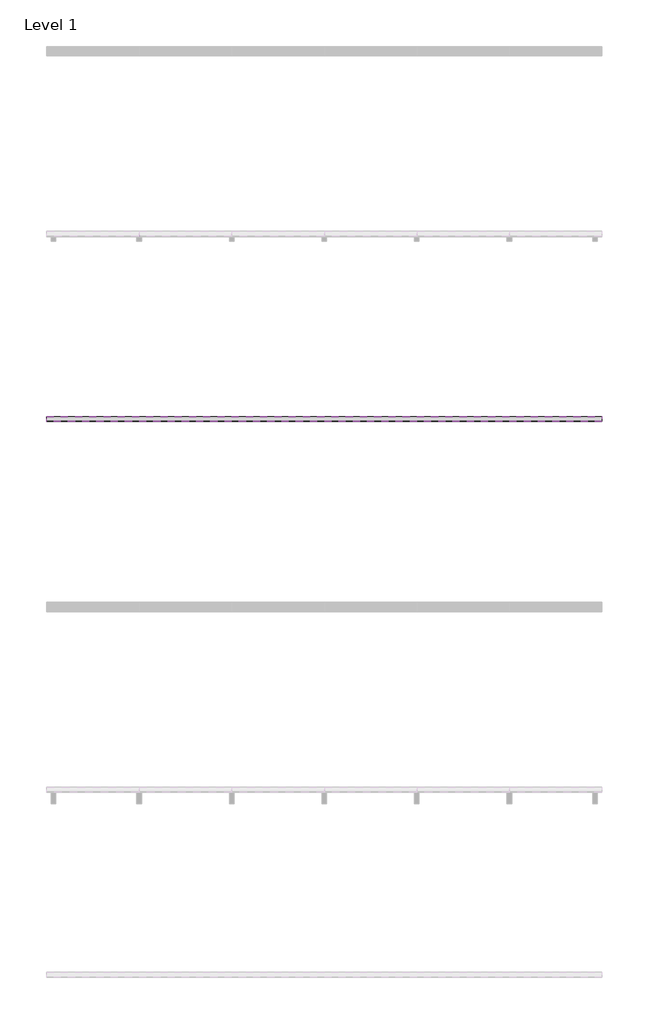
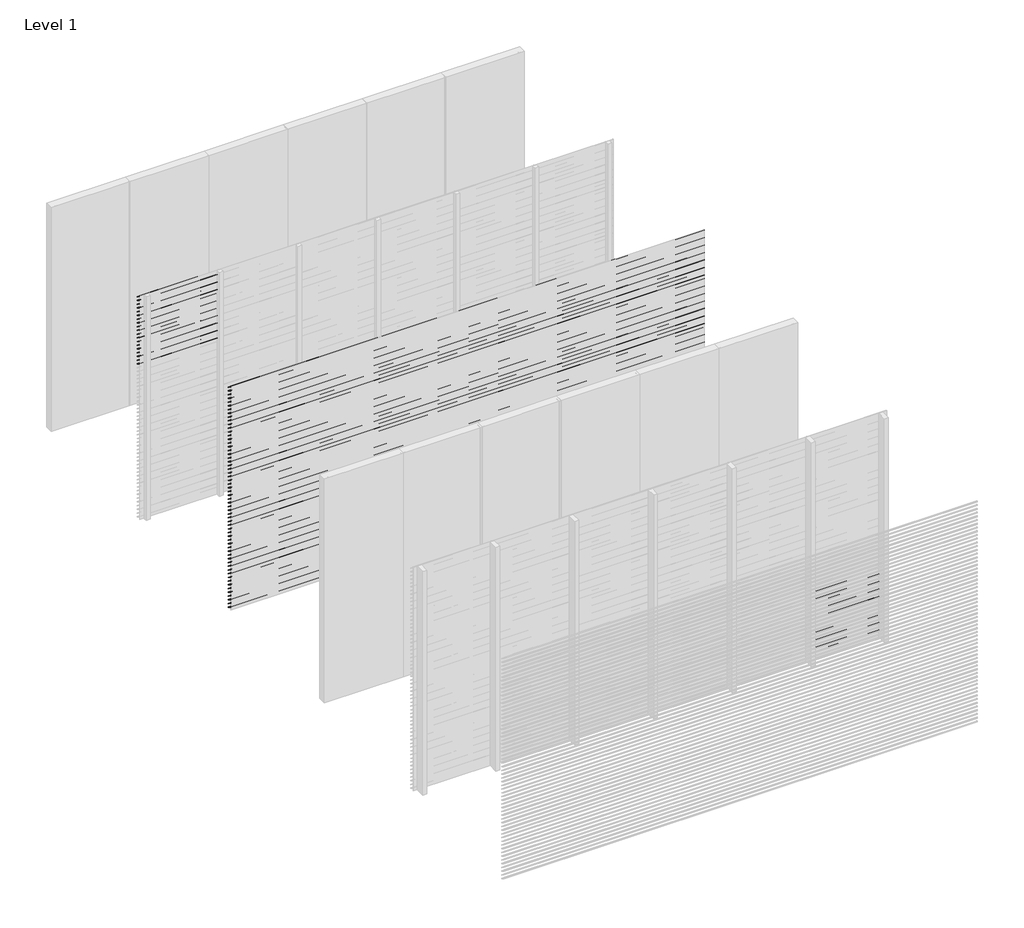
# One storey, part 6 of 18: 97 proxies.
"""IFC4 building model written with IfcOpenShell, lengths in millimetres."""

from ifc_helpers import new_model, si_unit, frame, origin, place, context, project, spatial, polyline, outline, extrude, element, save

model = new_model("IFC4")

# Units and contexts
model_context = context("Model", 3, world=origin())
ifc_project = project(units=[si_unit("LENGTHUNIT", "METRE", prefix="MILLI")], contexts=[model_context])

# Site, building, storey
site = spatial("IfcSite", under=ifc_project)
building = spatial("IfcBuilding", under=site)
storey = spatial("IfcBuildingStorey", under=building, Name="Level 1", Elevation=0.0)

# Proxies
placement = place(None, origin())
element("IfcBuildingElementProxy", 1, Name="Wall Sweeps", at=placement, inside=storey, context=model_context, shape_type="SweptSolid", body=[
    extrude(outline(polyline([(-11995.0, 3000.0), (-11995.0, 2991.0744429), (-11943.0, 2956.0), (-11943.0, 2950.0), (-11997.0, 2986.4234599), (-11997.0, 3000.0), (-11995.0, 3000.0)])), frame((0.0, 0.0, 0.0), z_axis=(1.0, 0.0, 0.0), x_axis=(0.0, 1.0, 0.0)), (0.0, 0.0, 1.0), 1000.0),
])
element("IfcBuildingElementProxy", 2, Name="Wall Sweeps", at=placement, inside=storey, context=model_context, shape_type="SweptSolid", body=[
    extrude(outline(polyline([(-11995.0, 2950.0), (-11995.0, 2941.0744429), (-11943.0, 2906.0), (-11943.0, 2900.0), (-11997.0, 2936.4234599), (-11997.0, 2950.0), (-11995.0, 2950.0)])), frame((0.0, 0.0, 0.0), z_axis=(1.0, 0.0, 0.0), x_axis=(0.0, 1.0, 0.0)), (0.0, 0.0, 1.0), 1000.0),
])
element("IfcBuildingElementProxy", 3, Name="Wall Sweeps", at=placement, inside=storey, context=model_context, shape_type="SweptSolid", body=[
    extrude(outline(polyline([(-11995.0, 2900.0), (-11995.0, 2891.0744429), (-11943.0, 2856.0), (-11943.0, 2850.0), (-11997.0, 2886.4234599), (-11997.0, 2900.0), (-11995.0, 2900.0)])), frame((0.0, 0.0, 0.0), z_axis=(1.0, 0.0, 0.0), x_axis=(0.0, 1.0, 0.0)), (0.0, 0.0, 1.0), 1000.0),
])
element("IfcBuildingElementProxy", 4, Name="Wall Sweeps", at=placement, inside=storey, context=model_context, shape_type="SweptSolid", body=[
    extrude(outline(polyline([(-11995.0, 2850.0), (-11995.0, 2841.0744429), (-11943.0, 2806.0), (-11943.0, 2800.0), (-11997.0, 2836.4234599), (-11997.0, 2850.0), (-11995.0, 2850.0)])), frame((0.0, 0.0, 0.0), z_axis=(1.0, 0.0, 0.0), x_axis=(0.0, 1.0, 0.0)), (0.0, 0.0, 1.0), 1000.0),
])
element("IfcBuildingElementProxy", 5, Name="Wall Sweeps", at=placement, inside=storey, context=model_context, shape_type="SweptSolid", body=[
    extrude(outline(polyline([(-11995.0, 2800.0), (-11995.0, 2791.0744429), (-11943.0, 2756.0), (-11943.0, 2750.0), (-11997.0, 2786.4234599), (-11997.0, 2800.0), (-11995.0, 2800.0)])), frame((0.0, 0.0, 0.0), z_axis=(1.0, 0.0, 0.0), x_axis=(0.0, 1.0, 0.0)), (0.0, 0.0, 1.0), 1000.0),
])
element("IfcBuildingElementProxy", 6, Name="Wall Sweeps", at=placement, inside=storey, context=model_context, shape_type="SweptSolid", body=[
    extrude(outline(polyline([(-11995.0, 2750.0), (-11995.0, 2741.0744429), (-11943.0, 2706.0), (-11943.0, 2700.0), (-11997.0, 2736.4234599), (-11997.0, 2750.0), (-11995.0, 2750.0)])), frame((0.0, 0.0, 0.0), z_axis=(1.0, 0.0, 0.0), x_axis=(0.0, 1.0, 0.0)), (0.0, 0.0, 1.0), 1000.0),
])
element("IfcBuildingElementProxy", 7, Name="Wall Sweeps", at=placement, inside=storey, context=model_context, shape_type="SweptSolid", body=[
    extrude(outline(polyline([(-11995.0, 2700.0), (-11995.0, 2691.0744429), (-11943.0, 2656.0), (-11943.0, 2650.0), (-11997.0, 2686.4234599), (-11997.0, 2700.0), (-11995.0, 2700.0)])), frame((0.0, 0.0, 0.0), z_axis=(1.0, 0.0, 0.0), x_axis=(0.0, 1.0, 0.0)), (0.0, 0.0, 1.0), 1000.0),
])
element("IfcBuildingElementProxy", 8, Name="Wall Sweeps", at=placement, inside=storey, context=model_context, shape_type="SweptSolid", body=[
    extrude(outline(polyline([(-11995.0, 2650.0), (-11995.0, 2641.0744429), (-11943.0, 2606.0), (-11943.0, 2600.0), (-11997.0, 2636.4234599), (-11997.0, 2650.0), (-11995.0, 2650.0)])), frame((0.0, 0.0, 0.0), z_axis=(1.0, 0.0, 0.0), x_axis=(0.0, 1.0, 0.0)), (0.0, 0.0, 1.0), 1000.0),
])
element("IfcBuildingElementProxy", 9, Name="Wall Sweeps", at=placement, inside=storey, context=model_context, shape_type="SweptSolid", body=[
    extrude(outline(polyline([(-11995.0, 2600.0), (-11995.0, 2591.0744429), (-11943.0, 2556.0), (-11943.0, 2550.0), (-11997.0, 2586.4234599), (-11997.0, 2600.0), (-11995.0, 2600.0)])), frame((0.0, 0.0, 0.0), z_axis=(1.0, 0.0, 0.0), x_axis=(0.0, 1.0, 0.0)), (0.0, 0.0, 1.0), 1000.0),
])
element("IfcBuildingElementProxy", 10, Name="Wall Sweeps", at=placement, inside=storey, context=model_context, shape_type="SweptSolid", body=[
    extrude(outline(polyline([(-11995.0, 2550.0), (-11995.0, 2541.0744429), (-11943.0, 2506.0), (-11943.0, 2500.0), (-11997.0, 2536.4234599), (-11997.0, 2550.0), (-11995.0, 2550.0)])), frame((0.0, 0.0, 0.0), z_axis=(1.0, 0.0, 0.0), x_axis=(0.0, 1.0, 0.0)), (0.0, 0.0, 1.0), 1000.0),
])
element("IfcBuildingElementProxy", 11, Name="Wall Sweeps", at=placement, inside=storey, context=model_context, shape_type="SweptSolid", body=[
    extrude(outline(polyline([(-11995.0, 2500.0), (-11995.0, 2491.0744429), (-11943.0, 2456.0), (-11943.0, 2450.0), (-11997.0, 2486.4234599), (-11997.0, 2500.0), (-11995.0, 2500.0)])), frame((0.0, 0.0, 0.0), z_axis=(1.0, 0.0, 0.0), x_axis=(0.0, 1.0, 0.0)), (0.0, 0.0, 1.0), 1000.0),
])
element("IfcBuildingElementProxy", 12, Name="Wall Sweeps", at=placement, inside=storey, context=model_context, shape_type="SweptSolid", body=[
    extrude(outline(polyline([(-11995.0, 2450.0), (-11995.0, 2441.0744429), (-11943.0, 2406.0), (-11943.0, 2400.0), (-11997.0, 2436.4234599), (-11997.0, 2450.0), (-11995.0, 2450.0)])), frame((0.0, 0.0, 0.0), z_axis=(1.0, 0.0, 0.0), x_axis=(0.0, 1.0, 0.0)), (0.0, 0.0, 1.0), 1000.0),
])
element("IfcBuildingElementProxy", 13, Name="Wall Sweeps", at=placement, inside=storey, context=model_context, shape_type="SweptSolid", body=[
    extrude(outline(polyline([(-11995.0, 2400.0), (-11995.0, 2391.0744429), (-11943.0, 2356.0), (-11943.0, 2350.0), (-11997.0, 2386.4234599), (-11997.0, 2400.0), (-11995.0, 2400.0)])), frame((0.0, 0.0, 0.0), z_axis=(1.0, 0.0, 0.0), x_axis=(0.0, 1.0, 0.0)), (0.0, 0.0, 1.0), 1000.0),
])
element("IfcBuildingElementProxy", 14, Name="Wall Sweeps", at=placement, inside=storey, context=model_context, shape_type="SweptSolid", body=[
    extrude(outline(polyline([(-11995.0, 2350.0), (-11995.0, 2341.0744429), (-11943.0, 2306.0), (-11943.0, 2300.0), (-11997.0, 2336.4234599), (-11997.0, 2350.0), (-11995.0, 2350.0)])), frame((0.0, 0.0, 0.0), z_axis=(1.0, 0.0, 0.0), x_axis=(0.0, 1.0, 0.0)), (0.0, 0.0, 1.0), 1000.0),
])
element("IfcBuildingElementProxy", 15, Name="Wall Sweeps", at=placement, inside=storey, context=model_context, shape_type="SweptSolid", body=[
    extrude(outline(polyline([(-11995.0, 2300.0), (-11995.0, 2291.0744429), (-11943.0, 2256.0), (-11943.0, 2250.0), (-11997.0, 2286.4234599), (-11997.0, 2300.0), (-11995.0, 2300.0)])), frame((0.0, 0.0, 0.0), z_axis=(1.0, 0.0, 0.0), x_axis=(0.0, 1.0, 0.0)), (0.0, 0.0, 1.0), 1000.0),
])
element("IfcBuildingElementProxy", 16, Name="Wall Sweeps", at=placement, inside=storey, context=model_context, shape_type="SweptSolid", body=[
    extrude(outline(polyline([(-11995.0, 2250.0), (-11995.0, 2241.0744429), (-11943.0, 2206.0), (-11943.0, 2200.0), (-11997.0, 2236.4234599), (-11997.0, 2250.0), (-11995.0, 2250.0)])), frame((0.0, 0.0, 0.0), z_axis=(1.0, 0.0, 0.0), x_axis=(0.0, 1.0, 0.0)), (0.0, 0.0, 1.0), 1000.0),
])
element("IfcBuildingElementProxy", 17, Name="Wall Sweeps", at=placement, inside=storey, context=model_context, shape_type="SweptSolid", body=[
    extrude(outline(polyline([(-11995.0, 2200.0), (-11995.0, 2191.0744429), (-11943.0, 2156.0), (-11943.0, 2150.0), (-11997.0, 2186.4234599), (-11997.0, 2200.0), (-11995.0, 2200.0)])), frame((0.0, 0.0, 0.0), z_axis=(1.0, 0.0, 0.0), x_axis=(0.0, 1.0, 0.0)), (0.0, 0.0, 1.0), 1000.0),
])
element("IfcBuildingElementProxy", 18, Name="Wall Sweeps", at=placement, inside=storey, context=model_context, shape_type="SweptSolid", body=[
    extrude(outline(polyline([(-11995.0, 2150.0), (-11995.0, 2141.0744429), (-11943.0, 2106.0), (-11943.0, 2100.0), (-11997.0, 2136.4234599), (-11997.0, 2150.0), (-11995.0, 2150.0)])), frame((0.0, 0.0, 0.0), z_axis=(1.0, 0.0, 0.0), x_axis=(0.0, 1.0, 0.0)), (0.0, 0.0, 1.0), 1000.0),
])
element("IfcBuildingElementProxy", 19, Name="Wall Sweeps", at=placement, inside=storey, context=model_context, shape_type="SweptSolid", body=[
    extrude(outline(polyline([(-11995.0, 2100.0), (-11995.0, 2091.0744429), (-11943.0, 2056.0), (-11943.0, 2050.0), (-11997.0, 2086.4234599), (-11997.0, 2100.0), (-11995.0, 2100.0)])), frame((0.0, 0.0, 0.0), z_axis=(1.0, 0.0, 0.0), x_axis=(0.0, 1.0, 0.0)), (0.0, 0.0, 1.0), 1000.0),
])
element("IfcBuildingElementProxy", 20, Name="Wall Sweeps", at=placement, inside=storey, context=model_context, shape_type="SweptSolid", body=[
    extrude(outline(polyline([(-13995.0, 3000.0), (-13995.0, 2991.0744429), (-13943.0, 2956.0), (-13943.0, 2950.0), (-13997.0, 2986.4234599), (-13997.0, 3000.0), (-13995.0, 3000.0)])), frame((0.0, 0.0, 0.0), z_axis=(1.0, 0.0, 0.0), x_axis=(0.0, 1.0, 0.0)), (0.0, 0.0, 1.0), 6000.0),
])
element("IfcBuildingElementProxy", 21, Name="Wall Sweeps", at=placement, inside=storey, context=model_context, shape_type="SweptSolid", body=[
    extrude(outline(polyline([(-13995.0, 2950.0), (-13995.0, 2941.0744429), (-13943.0, 2906.0), (-13943.0, 2900.0), (-13997.0, 2936.4234599), (-13997.0, 2950.0), (-13995.0, 2950.0)])), frame((0.0, 0.0, 0.0), z_axis=(1.0, 0.0, 0.0), x_axis=(0.0, 1.0, 0.0)), (0.0, 0.0, 1.0), 6000.0),
])
element("IfcBuildingElementProxy", 22, Name="Wall Sweeps", at=placement, inside=storey, context=model_context, shape_type="SweptSolid", body=[
    extrude(outline(polyline([(-13995.0, 2900.0), (-13995.0, 2891.0744429), (-13943.0, 2856.0), (-13943.0, 2850.0), (-13997.0, 2886.4234599), (-13997.0, 2900.0), (-13995.0, 2900.0)])), frame((0.0, 0.0, 0.0), z_axis=(1.0, 0.0, 0.0), x_axis=(0.0, 1.0, 0.0)), (0.0, 0.0, 1.0), 6000.0),
])
element("IfcBuildingElementProxy", 23, Name="Wall Sweeps", at=placement, inside=storey, context=model_context, shape_type="SweptSolid", body=[
    extrude(outline(polyline([(-13995.0, 2850.0), (-13995.0, 2841.0744429), (-13943.0, 2806.0), (-13943.0, 2800.0), (-13997.0, 2836.4234599), (-13997.0, 2850.0), (-13995.0, 2850.0)])), frame((0.0, 0.0, 0.0), z_axis=(1.0, 0.0, 0.0), x_axis=(0.0, 1.0, 0.0)), (0.0, 0.0, 1.0), 6000.0),
])
element("IfcBuildingElementProxy", 24, Name="Wall Sweeps", at=placement, inside=storey, context=model_context, shape_type="SweptSolid", body=[
    extrude(outline(polyline([(-13995.0, 2800.0), (-13995.0, 2791.0744429), (-13943.0, 2756.0), (-13943.0, 2750.0), (-13997.0, 2786.4234599), (-13997.0, 2800.0), (-13995.0, 2800.0)])), frame((0.0, 0.0, 0.0), z_axis=(1.0, 0.0, 0.0), x_axis=(0.0, 1.0, 0.0)), (0.0, 0.0, 1.0), 6000.0),
])
element("IfcBuildingElementProxy", 25, Name="Wall Sweeps", at=placement, inside=storey, context=model_context, shape_type="SweptSolid", body=[
    extrude(outline(polyline([(-13995.0, 2750.0), (-13995.0, 2741.0744429), (-13943.0, 2706.0), (-13943.0, 2700.0), (-13997.0, 2736.4234599), (-13997.0, 2750.0), (-13995.0, 2750.0)])), frame((0.0, 0.0, 0.0), z_axis=(1.0, 0.0, 0.0), x_axis=(0.0, 1.0, 0.0)), (0.0, 0.0, 1.0), 6000.0),
])
element("IfcBuildingElementProxy", 26, Name="Wall Sweeps", at=placement, inside=storey, context=model_context, shape_type="SweptSolid", body=[
    extrude(outline(polyline([(-13995.0, 2700.0), (-13995.0, 2691.0744429), (-13943.0, 2656.0), (-13943.0, 2650.0), (-13997.0, 2686.4234599), (-13997.0, 2700.0), (-13995.0, 2700.0)])), frame((0.0, 0.0, 0.0), z_axis=(1.0, 0.0, 0.0), x_axis=(0.0, 1.0, 0.0)), (0.0, 0.0, 1.0), 6000.0),
])
element("IfcBuildingElementProxy", 27, Name="Wall Sweeps", at=placement, inside=storey, context=model_context, shape_type="SweptSolid", body=[
    extrude(outline(polyline([(-13995.0, 2650.0), (-13995.0, 2641.0744429), (-13943.0, 2606.0), (-13943.0, 2600.0), (-13997.0, 2636.4234599), (-13997.0, 2650.0), (-13995.0, 2650.0)])), frame((0.0, 0.0, 0.0), z_axis=(1.0, 0.0, 0.0), x_axis=(0.0, 1.0, 0.0)), (0.0, 0.0, 1.0), 6000.0),
])
element("IfcBuildingElementProxy", 28, Name="Wall Sweeps", at=placement, inside=storey, context=model_context, shape_type="SweptSolid", body=[
    extrude(outline(polyline([(-13995.0, 2600.0), (-13995.0, 2591.0744429), (-13943.0, 2556.0), (-13943.0, 2550.0), (-13997.0, 2586.4234599), (-13997.0, 2600.0), (-13995.0, 2600.0)])), frame((0.0, 0.0, 0.0), z_axis=(1.0, 0.0, 0.0), x_axis=(0.0, 1.0, 0.0)), (0.0, 0.0, 1.0), 6000.0),
])
element("IfcBuildingElementProxy", 29, Name="Wall Sweeps", at=placement, inside=storey, context=model_context, shape_type="SweptSolid", body=[
    extrude(outline(polyline([(-13995.0, 2550.0), (-13995.0, 2541.0744429), (-13943.0, 2506.0), (-13943.0, 2500.0), (-13997.0, 2536.4234599), (-13997.0, 2550.0), (-13995.0, 2550.0)])), frame((0.0, 0.0, 0.0), z_axis=(1.0, 0.0, 0.0), x_axis=(0.0, 1.0, 0.0)), (0.0, 0.0, 1.0), 6000.0),
])
element("IfcBuildingElementProxy", 30, Name="Wall Sweeps", at=placement, inside=storey, context=model_context, shape_type="SweptSolid", body=[
    extrude(outline(polyline([(-13995.0, 2500.0), (-13995.0, 2491.0744429), (-13943.0, 2456.0), (-13943.0, 2450.0), (-13997.0, 2486.4234599), (-13997.0, 2500.0), (-13995.0, 2500.0)])), frame((0.0, 0.0, 0.0), z_axis=(1.0, 0.0, 0.0), x_axis=(0.0, 1.0, 0.0)), (0.0, 0.0, 1.0), 6000.0),
])
element("IfcBuildingElementProxy", 31, Name="Wall Sweeps", at=placement, inside=storey, context=model_context, shape_type="SweptSolid", body=[
    extrude(outline(polyline([(-13995.0, 2450.0), (-13995.0, 2441.0744429), (-13943.0, 2406.0), (-13943.0, 2400.0), (-13997.0, 2436.4234599), (-13997.0, 2450.0), (-13995.0, 2450.0)])), frame((0.0, 0.0, 0.0), z_axis=(1.0, 0.0, 0.0), x_axis=(0.0, 1.0, 0.0)), (0.0, 0.0, 1.0), 6000.0),
])
element("IfcBuildingElementProxy", 32, Name="Wall Sweeps", at=placement, inside=storey, context=model_context, shape_type="SweptSolid", body=[
    extrude(outline(polyline([(-13995.0, 2400.0), (-13995.0, 2391.0744429), (-13943.0, 2356.0), (-13943.0, 2350.0), (-13997.0, 2386.4234599), (-13997.0, 2400.0), (-13995.0, 2400.0)])), frame((0.0, 0.0, 0.0), z_axis=(1.0, 0.0, 0.0), x_axis=(0.0, 1.0, 0.0)), (0.0, 0.0, 1.0), 6000.0),
])
element("IfcBuildingElementProxy", 33, Name="Wall Sweeps", at=placement, inside=storey, context=model_context, shape_type="SweptSolid", body=[
    extrude(outline(polyline([(-13995.0, 2350.0), (-13995.0, 2341.0744429), (-13943.0, 2306.0), (-13943.0, 2300.0), (-13997.0, 2336.4234599), (-13997.0, 2350.0), (-13995.0, 2350.0)])), frame((0.0, 0.0, 0.0), z_axis=(1.0, 0.0, 0.0), x_axis=(0.0, 1.0, 0.0)), (0.0, 0.0, 1.0), 6000.0),
])
element("IfcBuildingElementProxy", 34, Name="Wall Sweeps", at=placement, inside=storey, context=model_context, shape_type="SweptSolid", body=[
    extrude(outline(polyline([(-13995.0, 2300.0), (-13995.0, 2291.0744429), (-13943.0, 2256.0), (-13943.0, 2250.0), (-13997.0, 2286.4234599), (-13997.0, 2300.0), (-13995.0, 2300.0)])), frame((0.0, 0.0, 0.0), z_axis=(1.0, 0.0, 0.0), x_axis=(0.0, 1.0, 0.0)), (0.0, 0.0, 1.0), 6000.0),
])
element("IfcBuildingElementProxy", 35, Name="Wall Sweeps", at=placement, inside=storey, context=model_context, shape_type="SweptSolid", body=[
    extrude(outline(polyline([(-13995.0, 2250.0), (-13995.0, 2241.0744429), (-13943.0, 2206.0), (-13943.0, 2200.0), (-13997.0, 2236.4234599), (-13997.0, 2250.0), (-13995.0, 2250.0)])), frame((0.0, 0.0, 0.0), z_axis=(1.0, 0.0, 0.0), x_axis=(0.0, 1.0, 0.0)), (0.0, 0.0, 1.0), 6000.0),
])
element("IfcBuildingElementProxy", 36, Name="Wall Sweeps", at=placement, inside=storey, context=model_context, shape_type="SweptSolid", body=[
    extrude(outline(polyline([(-13995.0, 2200.0), (-13995.0, 2191.0744429), (-13943.0, 2156.0), (-13943.0, 2150.0), (-13997.0, 2186.4234599), (-13997.0, 2200.0), (-13995.0, 2200.0)])), frame((0.0, 0.0, 0.0), z_axis=(1.0, 0.0, 0.0), x_axis=(0.0, 1.0, 0.0)), (0.0, 0.0, 1.0), 6000.0),
])
element("IfcBuildingElementProxy", 37, Name="Wall Sweeps", at=placement, inside=storey, context=model_context, shape_type="SweptSolid", body=[
    extrude(outline(polyline([(-13995.0, 2150.0), (-13995.0, 2141.0744429), (-13943.0, 2106.0), (-13943.0, 2100.0), (-13997.0, 2136.4234599), (-13997.0, 2150.0), (-13995.0, 2150.0)])), frame((0.0, 0.0, 0.0), z_axis=(1.0, 0.0, 0.0), x_axis=(0.0, 1.0, 0.0)), (0.0, 0.0, 1.0), 6000.0),
])
element("IfcBuildingElementProxy", 38, Name="Wall Sweeps", at=placement, inside=storey, context=model_context, shape_type="SweptSolid", body=[
    extrude(outline(polyline([(-13995.0, 2100.0), (-13995.0, 2091.0744429), (-13943.0, 2056.0), (-13943.0, 2050.0), (-13997.0, 2086.4234599), (-13997.0, 2100.0), (-13995.0, 2100.0)])), frame((0.0, 0.0, 0.0), z_axis=(1.0, 0.0, 0.0), x_axis=(0.0, 1.0, 0.0)), (0.0, 0.0, 1.0), 6000.0),
])
element("IfcBuildingElementProxy", 39, Name="Wall Sweeps", at=placement, inside=storey, context=model_context, shape_type="SweptSolid", body=[
    extrude(outline(polyline([(-13995.0, 2050.0), (-13995.0, 2041.0744429), (-13943.0, 2006.0), (-13943.0, 2000.0), (-13997.0, 2036.4234599), (-13997.0, 2050.0), (-13995.0, 2050.0)])), frame((0.0, 0.0, 0.0), z_axis=(1.0, 0.0, 0.0), x_axis=(0.0, 1.0, 0.0)), (0.0, 0.0, 1.0), 6000.0),
])
element("IfcBuildingElementProxy", 40, Name="Wall Sweeps", at=placement, inside=storey, context=model_context, shape_type="SweptSolid", body=[
    extrude(outline(polyline([(-13995.0, 2000.0), (-13995.0, 1991.0744429), (-13943.0, 1956.0), (-13943.0, 1950.0), (-13997.0, 1986.4234599), (-13997.0, 2000.0), (-13995.0, 2000.0)])), frame((0.0, 0.0, 0.0), z_axis=(1.0, 0.0, 0.0), x_axis=(0.0, 1.0, 0.0)), (0.0, 0.0, 1.0), 6000.0),
])
element("IfcBuildingElementProxy", 41, Name="Wall Sweeps", at=placement, inside=storey, context=model_context, shape_type="SweptSolid", body=[
    extrude(outline(polyline([(-13995.0, 1950.0), (-13995.0, 1941.0744429), (-13943.0, 1906.0), (-13943.0, 1900.0), (-13997.0, 1936.4234599), (-13997.0, 1950.0), (-13995.0, 1950.0)])), frame((0.0, 0.0, 0.0), z_axis=(1.0, 0.0, 0.0), x_axis=(0.0, 1.0, 0.0)), (0.0, 0.0, 1.0), 6000.0),
])
element("IfcBuildingElementProxy", 42, Name="Wall Sweeps", at=placement, inside=storey, context=model_context, shape_type="SweptSolid", body=[
    extrude(outline(polyline([(-13995.0, 1900.0), (-13995.0, 1891.0744429), (-13943.0, 1856.0), (-13943.0, 1850.0), (-13997.0, 1886.4234599), (-13997.0, 1900.0), (-13995.0, 1900.0)])), frame((0.0, 0.0, 0.0), z_axis=(1.0, 0.0, 0.0), x_axis=(0.0, 1.0, 0.0)), (0.0, 0.0, 1.0), 6000.0),
])
element("IfcBuildingElementProxy", 43, Name="Wall Sweeps", at=placement, inside=storey, context=model_context, shape_type="SweptSolid", body=[
    extrude(outline(polyline([(-13995.0, 1850.0), (-13995.0, 1841.0744429), (-13943.0, 1806.0), (-13943.0, 1800.0), (-13997.0, 1836.4234599), (-13997.0, 1850.0), (-13995.0, 1850.0)])), frame((0.0, 0.0, 0.0), z_axis=(1.0, 0.0, 0.0), x_axis=(0.0, 1.0, 0.0)), (0.0, 0.0, 1.0), 6000.0),
])
element("IfcBuildingElementProxy", 44, Name="Wall Sweeps", at=placement, inside=storey, context=model_context, shape_type="SweptSolid", body=[
    extrude(outline(polyline([(-13995.0, 1800.0), (-13995.0, 1791.0744429), (-13943.0, 1756.0), (-13943.0, 1750.0), (-13997.0, 1786.4234599), (-13997.0, 1800.0), (-13995.0, 1800.0)])), frame((0.0, 0.0, 0.0), z_axis=(1.0, 0.0, 0.0), x_axis=(0.0, 1.0, 0.0)), (0.0, 0.0, 1.0), 6000.0),
])
element("IfcBuildingElementProxy", 45, Name="Wall Sweeps", at=placement, inside=storey, context=model_context, shape_type="SweptSolid", body=[
    extrude(outline(polyline([(-13995.0, 1750.0), (-13995.0, 1741.0744429), (-13943.0, 1706.0), (-13943.0, 1700.0), (-13997.0, 1736.4234599), (-13997.0, 1750.0), (-13995.0, 1750.0)])), frame((0.0, 0.0, 0.0), z_axis=(1.0, 0.0, 0.0), x_axis=(0.0, 1.0, 0.0)), (0.0, 0.0, 1.0), 6000.0),
])
element("IfcBuildingElementProxy", 46, Name="Wall Sweeps", at=placement, inside=storey, context=model_context, shape_type="SweptSolid", body=[
    extrude(outline(polyline([(-13995.0, 1700.0), (-13995.0, 1691.0744429), (-13943.0, 1656.0), (-13943.0, 1650.0), (-13997.0, 1686.4234599), (-13997.0, 1700.0), (-13995.0, 1700.0)])), frame((0.0, 0.0, 0.0), z_axis=(1.0, 0.0, 0.0), x_axis=(0.0, 1.0, 0.0)), (0.0, 0.0, 1.0), 6000.0),
])
element("IfcBuildingElementProxy", 47, Name="Wall Sweeps", at=placement, inside=storey, context=model_context, shape_type="SweptSolid", body=[
    extrude(outline(polyline([(-13995.0, 1650.0), (-13995.0, 1641.0744429), (-13943.0, 1606.0), (-13943.0, 1600.0), (-13997.0, 1636.4234599), (-13997.0, 1650.0), (-13995.0, 1650.0)])), frame((0.0, 0.0, 0.0), z_axis=(1.0, 0.0, 0.0), x_axis=(0.0, 1.0, 0.0)), (0.0, 0.0, 1.0), 6000.0),
])
element("IfcBuildingElementProxy", 48, Name="Wall Sweeps", at=placement, inside=storey, context=model_context, shape_type="SweptSolid", body=[
    extrude(outline(polyline([(-13995.0, 1600.0), (-13995.0, 1591.0744429), (-13943.0, 1556.0), (-13943.0, 1550.0), (-13997.0, 1586.4234599), (-13997.0, 1600.0), (-13995.0, 1600.0)])), frame((0.0, 0.0, 0.0), z_axis=(1.0, 0.0, 0.0), x_axis=(0.0, 1.0, 0.0)), (0.0, 0.0, 1.0), 6000.0),
])
element("IfcBuildingElementProxy", 49, Name="Wall Sweeps", at=placement, inside=storey, context=model_context, shape_type="SweptSolid", body=[
    extrude(outline(polyline([(-13995.0, 1550.0), (-13995.0, 1541.0744429), (-13943.0, 1506.0), (-13943.0, 1500.0), (-13997.0, 1536.4234599), (-13997.0, 1550.0), (-13995.0, 1550.0)])), frame((0.0, 0.0, 0.0), z_axis=(1.0, 0.0, 0.0), x_axis=(0.0, 1.0, 0.0)), (0.0, 0.0, 1.0), 6000.0),
])
element("IfcBuildingElementProxy", 50, Name="Wall Sweeps", at=placement, inside=storey, context=model_context, shape_type="SweptSolid", body=[
    extrude(outline(polyline([(-13995.0, 1500.0), (-13995.0, 1491.0744429), (-13943.0, 1456.0), (-13943.0, 1450.0), (-13997.0, 1486.4234599), (-13997.0, 1500.0), (-13995.0, 1500.0)])), frame((0.0, 0.0, 0.0), z_axis=(1.0, 0.0, 0.0), x_axis=(0.0, 1.0, 0.0)), (0.0, 0.0, 1.0), 6000.0),
])
element("IfcBuildingElementProxy", 51, Name="Wall Sweeps", at=placement, inside=storey, context=model_context, shape_type="SweptSolid", body=[
    extrude(outline(polyline([(-13995.0, 1450.0), (-13995.0, 1441.0744429), (-13943.0, 1406.0), (-13943.0, 1400.0), (-13997.0, 1436.4234599), (-13997.0, 1450.0), (-13995.0, 1450.0)])), frame((0.0, 0.0, 0.0), z_axis=(1.0, 0.0, 0.0), x_axis=(0.0, 1.0, 0.0)), (0.0, 0.0, 1.0), 6000.0),
])
element("IfcBuildingElementProxy", 52, Name="Wall Sweeps", at=placement, inside=storey, context=model_context, shape_type="SweptSolid", body=[
    extrude(outline(polyline([(-13995.0, 1400.0), (-13995.0, 1391.0744429), (-13943.0, 1356.0), (-13943.0, 1350.0), (-13997.0, 1386.4234599), (-13997.0, 1400.0), (-13995.0, 1400.0)])), frame((0.0, 0.0, 0.0), z_axis=(1.0, 0.0, 0.0), x_axis=(0.0, 1.0, 0.0)), (0.0, 0.0, 1.0), 6000.0),
])
element("IfcBuildingElementProxy", 53, Name="Wall Sweeps", at=placement, inside=storey, context=model_context, shape_type="SweptSolid", body=[
    extrude(outline(polyline([(-13995.0, 1350.0), (-13995.0, 1341.0744429), (-13943.0, 1306.0), (-13943.0, 1300.0), (-13997.0, 1336.4234599), (-13997.0, 1350.0), (-13995.0, 1350.0)])), frame((0.0, 0.0, 0.0), z_axis=(1.0, 0.0, 0.0), x_axis=(0.0, 1.0, 0.0)), (0.0, 0.0, 1.0), 6000.0),
])
element("IfcBuildingElementProxy", 54, Name="Wall Sweeps", at=placement, inside=storey, context=model_context, shape_type="SweptSolid", body=[
    extrude(outline(polyline([(-13995.0, 1300.0), (-13995.0, 1291.0744429), (-13943.0, 1256.0), (-13943.0, 1250.0), (-13997.0, 1286.4234599), (-13997.0, 1300.0), (-13995.0, 1300.0)])), frame((0.0, 0.0, 0.0), z_axis=(1.0, 0.0, 0.0), x_axis=(0.0, 1.0, 0.0)), (0.0, 0.0, 1.0), 6000.0),
])
element("IfcBuildingElementProxy", 55, Name="Wall Sweeps", at=placement, inside=storey, context=model_context, shape_type="SweptSolid", body=[
    extrude(outline(polyline([(-13995.0, 1250.0), (-13995.0, 1241.0744429), (-13943.0, 1206.0), (-13943.0, 1200.0), (-13997.0, 1236.4234599), (-13997.0, 1250.0), (-13995.0, 1250.0)])), frame((0.0, 0.0, 0.0), z_axis=(1.0, 0.0, 0.0), x_axis=(0.0, 1.0, 0.0)), (0.0, 0.0, 1.0), 6000.0),
])
element("IfcBuildingElementProxy", 56, Name="Wall Sweeps", at=placement, inside=storey, context=model_context, shape_type="SweptSolid", body=[
    extrude(outline(polyline([(-13995.0, 1200.0), (-13995.0, 1191.0744429), (-13943.0, 1156.0), (-13943.0, 1150.0), (-13997.0, 1186.4234599), (-13997.0, 1200.0), (-13995.0, 1200.0)])), frame((0.0, 0.0, 0.0), z_axis=(1.0, 0.0, 0.0), x_axis=(0.0, 1.0, 0.0)), (0.0, 0.0, 1.0), 6000.0),
])
element("IfcBuildingElementProxy", 57, Name="Wall Sweeps", at=placement, inside=storey, context=model_context, shape_type="SweptSolid", body=[
    extrude(outline(polyline([(-13995.0, 1150.0), (-13995.0, 1141.0744429), (-13943.0, 1106.0), (-13943.0, 1100.0), (-13997.0, 1136.4234599), (-13997.0, 1150.0), (-13995.0, 1150.0)])), frame((0.0, 0.0, 0.0), z_axis=(1.0, 0.0, 0.0), x_axis=(0.0, 1.0, 0.0)), (0.0, 0.0, 1.0), 6000.0),
])
element("IfcBuildingElementProxy", 58, Name="Wall Sweeps", at=placement, inside=storey, context=model_context, shape_type="SweptSolid", body=[
    extrude(outline(polyline([(-13995.0, 1100.0), (-13995.0, 1091.0744429), (-13943.0, 1056.0), (-13943.0, 1050.0), (-13997.0, 1086.4234599), (-13997.0, 1100.0), (-13995.0, 1100.0)])), frame((0.0, 0.0, 0.0), z_axis=(1.0, 0.0, 0.0), x_axis=(0.0, 1.0, 0.0)), (0.0, 0.0, 1.0), 6000.0),
])
element("IfcBuildingElementProxy", 59, Name="Wall Sweeps", at=placement, inside=storey, context=model_context, shape_type="SweptSolid", body=[
    extrude(outline(polyline([(-13995.0, 1050.0), (-13995.0, 1041.0744429), (-13943.0, 1006.0), (-13943.0, 1000.0), (-13997.0, 1036.4234599), (-13997.0, 1050.0), (-13995.0, 1050.0)])), frame((0.0, 0.0, 0.0), z_axis=(1.0, 0.0, 0.0), x_axis=(0.0, 1.0, 0.0)), (0.0, 0.0, 1.0), 6000.0),
])
element("IfcBuildingElementProxy", 60, Name="Wall Sweeps", at=placement, inside=storey, context=model_context, shape_type="SweptSolid", body=[
    extrude(outline(polyline([(-13995.0, 1000.0), (-13995.0, 991.0744429), (-13943.0, 956.0), (-13943.0, 950.0), (-13997.0, 986.4234599), (-13997.0, 1000.0), (-13995.0, 1000.0)])), frame((0.0, 0.0, 0.0), z_axis=(1.0, 0.0, 0.0), x_axis=(0.0, 1.0, 0.0)), (0.0, 0.0, 1.0), 6000.0),
])
element("IfcBuildingElementProxy", 61, Name="Wall Sweeps", at=placement, inside=storey, context=model_context, shape_type="SweptSolid", body=[
    extrude(outline(polyline([(-13995.0, 950.0), (-13995.0, 941.0744429), (-13943.0, 906.0), (-13943.0, 900.0), (-13997.0, 936.4234599), (-13997.0, 950.0), (-13995.0, 950.0)])), frame((0.0, 0.0, 0.0), z_axis=(1.0, 0.0, 0.0), x_axis=(0.0, 1.0, 0.0)), (0.0, 0.0, 1.0), 6000.0),
])
element("IfcBuildingElementProxy", 62, Name="Wall Sweeps", at=placement, inside=storey, context=model_context, shape_type="SweptSolid", body=[
    extrude(outline(polyline([(-13995.0, 900.0), (-13995.0, 891.0744429), (-13943.0, 856.0), (-13943.0, 850.0), (-13997.0, 886.4234599), (-13997.0, 900.0), (-13995.0, 900.0)])), frame((0.0, 0.0, 0.0), z_axis=(1.0, 0.0, 0.0), x_axis=(0.0, 1.0, 0.0)), (0.0, 0.0, 1.0), 6000.0),
])
element("IfcBuildingElementProxy", 63, Name="Wall Sweeps", at=placement, inside=storey, context=model_context, shape_type="SweptSolid", body=[
    extrude(outline(polyline([(-13995.0, 850.0), (-13995.0, 841.0744429), (-13943.0, 806.0), (-13943.0, 800.0), (-13997.0, 836.4234599), (-13997.0, 850.0), (-13995.0, 850.0)])), frame((0.0, 0.0, 0.0), z_axis=(1.0, 0.0, 0.0), x_axis=(0.0, 1.0, 0.0)), (0.0, 0.0, 1.0), 6000.0),
])
element("IfcBuildingElementProxy", 64, Name="Wall Sweeps", at=placement, inside=storey, context=model_context, shape_type="SweptSolid", body=[
    extrude(outline(polyline([(-13995.0, 800.0), (-13995.0, 791.0744429), (-13943.0, 756.0), (-13943.0, 750.0), (-13997.0, 786.4234599), (-13997.0, 800.0), (-13995.0, 800.0)])), frame((0.0, 0.0, 0.0), z_axis=(1.0, 0.0, 0.0), x_axis=(0.0, 1.0, 0.0)), (0.0, 0.0, 1.0), 6000.0),
])
element("IfcBuildingElementProxy", 65, Name="Wall Sweeps", at=placement, inside=storey, context=model_context, shape_type="SweptSolid", body=[
    extrude(outline(polyline([(-13995.0, 750.0), (-13995.0, 741.0744429), (-13943.0, 706.0), (-13943.0, 700.0), (-13997.0, 736.4234599), (-13997.0, 750.0), (-13995.0, 750.0)])), frame((0.0, 0.0, 0.0), z_axis=(1.0, 0.0, 0.0), x_axis=(0.0, 1.0, 0.0)), (0.0, 0.0, 1.0), 6000.0),
])
element("IfcBuildingElementProxy", 66, Name="Wall Sweeps", at=placement, inside=storey, context=model_context, shape_type="SweptSolid", body=[
    extrude(outline(polyline([(-13995.0, 700.0), (-13995.0, 691.0744429), (-13943.0, 656.0), (-13943.0, 650.0), (-13997.0, 686.4234599), (-13997.0, 700.0), (-13995.0, 700.0)])), frame((0.0, 0.0, 0.0), z_axis=(1.0, 0.0, 0.0), x_axis=(0.0, 1.0, 0.0)), (0.0, 0.0, 1.0), 6000.0),
])
element("IfcBuildingElementProxy", 67, Name="Wall Sweeps", at=placement, inside=storey, context=model_context, shape_type="SweptSolid", body=[
    extrude(outline(polyline([(-13995.0, 650.0), (-13995.0, 641.0744429), (-13943.0, 606.0), (-13943.0, 600.0), (-13997.0, 636.4234599), (-13997.0, 650.0), (-13995.0, 650.0)])), frame((0.0, 0.0, 0.0), z_axis=(1.0, 0.0, 0.0), x_axis=(0.0, 1.0, 0.0)), (0.0, 0.0, 1.0), 6000.0),
])
element("IfcBuildingElementProxy", 68, Name="Wall Sweeps", at=placement, inside=storey, context=model_context, shape_type="SweptSolid", body=[
    extrude(outline(polyline([(-13995.0, 600.0), (-13995.0, 591.0744429), (-13943.0, 556.0), (-13943.0, 550.0), (-13997.0, 586.4234599), (-13997.0, 600.0), (-13995.0, 600.0)])), frame((0.0, 0.0, 0.0), z_axis=(1.0, 0.0, 0.0), x_axis=(0.0, 1.0, 0.0)), (0.0, 0.0, 1.0), 6000.0),
])
element("IfcBuildingElementProxy", 69, Name="Wall Sweeps", at=placement, inside=storey, context=model_context, shape_type="SweptSolid", body=[
    extrude(outline(polyline([(-13995.0, 550.0), (-13995.0, 541.0744429), (-13943.0, 506.0), (-13943.0, 500.0), (-13997.0, 536.4234599), (-13997.0, 550.0), (-13995.0, 550.0)])), frame((0.0, 0.0, 0.0), z_axis=(1.0, 0.0, 0.0), x_axis=(0.0, 1.0, 0.0)), (0.0, 0.0, 1.0), 6000.0),
])
element("IfcBuildingElementProxy", 70, Name="Wall Sweeps", at=placement, inside=storey, context=model_context, shape_type="SweptSolid", body=[
    extrude(outline(polyline([(-13995.0, 500.0), (-13995.0, 491.0744429), (-13943.0, 456.0), (-13943.0, 450.0), (-13997.0, 486.4234599), (-13997.0, 500.0), (-13995.0, 500.0)])), frame((0.0, 0.0, 0.0), z_axis=(1.0, 0.0, 0.0), x_axis=(0.0, 1.0, 0.0)), (0.0, 0.0, 1.0), 6000.0),
])
element("IfcBuildingElementProxy", 71, Name="Wall Sweeps", at=placement, inside=storey, context=model_context, shape_type="SweptSolid", body=[
    extrude(outline(polyline([(-13995.0, 450.0), (-13995.0, 441.0744429), (-13943.0, 406.0), (-13943.0, 400.0), (-13997.0, 436.4234599), (-13997.0, 450.0), (-13995.0, 450.0)])), frame((0.0, 0.0, 0.0), z_axis=(1.0, 0.0, 0.0), x_axis=(0.0, 1.0, 0.0)), (0.0, 0.0, 1.0), 6000.0),
])
element("IfcBuildingElementProxy", 72, Name="Wall Sweeps", at=placement, inside=storey, context=model_context, shape_type="SweptSolid", body=[
    extrude(outline(polyline([(-13995.0, 400.0), (-13995.0, 391.0744429), (-13943.0, 356.0), (-13943.0, 350.0), (-13997.0, 386.4234599), (-13997.0, 400.0), (-13995.0, 400.0)])), frame((0.0, 0.0, 0.0), z_axis=(1.0, 0.0, 0.0), x_axis=(0.0, 1.0, 0.0)), (0.0, 0.0, 1.0), 6000.0),
])
element("IfcBuildingElementProxy", 73, Name="Wall Sweeps", at=placement, inside=storey, context=model_context, shape_type="SweptSolid", body=[
    extrude(outline(polyline([(-13995.0, 350.0), (-13995.0, 341.0744429), (-13943.0, 306.0), (-13943.0, 300.0), (-13997.0, 336.4234599), (-13997.0, 350.0), (-13995.0, 350.0)])), frame((0.0, 0.0, 0.0), z_axis=(1.0, 0.0, 0.0), x_axis=(0.0, 1.0, 0.0)), (0.0, 0.0, 1.0), 6000.0),
])
element("IfcBuildingElementProxy", 74, Name="Wall Sweeps", at=placement, inside=storey, context=model_context, shape_type="SweptSolid", body=[
    extrude(outline(polyline([(-13995.0, 300.0), (-13995.0, 291.0744429), (-13943.0, 256.0), (-13943.0, 250.0), (-13997.0, 286.4234599), (-13997.0, 300.0), (-13995.0, 300.0)])), frame((0.0, 0.0, 0.0), z_axis=(1.0, 0.0, 0.0), x_axis=(0.0, 1.0, 0.0)), (0.0, 0.0, 1.0), 6000.0),
])
element("IfcBuildingElementProxy", 75, Name="Wall Sweeps", at=placement, inside=storey, context=model_context, shape_type="SweptSolid", body=[
    extrude(outline(polyline([(-13995.0, 250.0), (-13995.0, 241.0744429), (-13943.0, 206.0), (-13943.0, 200.0), (-13997.0, 236.4234599), (-13997.0, 250.0), (-13995.0, 250.0)])), frame((0.0, 0.0, 0.0), z_axis=(1.0, 0.0, 0.0), x_axis=(0.0, 1.0, 0.0)), (0.0, 0.0, 1.0), 6000.0),
])
element("IfcBuildingElementProxy", 76, Name="Wall Sweeps", at=placement, inside=storey, context=model_context, shape_type="SweptSolid", body=[
    extrude(outline(polyline([(-13995.0, 200.0), (-13995.0, 191.0744429), (-13943.0, 156.0), (-13943.0, 150.0), (-13997.0, 186.4234599), (-13997.0, 200.0), (-13995.0, 200.0)])), frame((0.0, 0.0, 0.0), z_axis=(1.0, 0.0, 0.0), x_axis=(0.0, 1.0, 0.0)), (0.0, 0.0, 1.0), 6000.0),
])
element("IfcBuildingElementProxy", 77, Name="Wall Sweeps", at=placement, inside=storey, context=model_context, shape_type="SweptSolid", body=[
    extrude(outline(polyline([(-13995.0, 150.0), (-13995.0, 141.0744429), (-13943.0, 106.0), (-13943.0, 100.0), (-13997.0, 136.4234599), (-13997.0, 150.0), (-13995.0, 150.0)])), frame((0.0, 0.0, 0.0), z_axis=(1.0, 0.0, 0.0), x_axis=(0.0, 1.0, 0.0)), (0.0, 0.0, 1.0), 6000.0),
])
element("IfcBuildingElementProxy", 78, Name="Wall Sweeps", at=placement, inside=storey, context=model_context, shape_type="SweptSolid", body=[
    extrude(outline(polyline([(-13995.0, 100.0), (-13995.0, 91.0744429), (-13943.0, 56.0), (-13943.0, 50.0), (-13997.0, 86.4234599), (-13997.0, 100.0), (-13995.0, 100.0)])), frame((0.0, 0.0, 0.0), z_axis=(1.0, 0.0, 0.0), x_axis=(0.0, 1.0, 0.0)), (0.0, 0.0, 1.0), 6000.0),
])
element("IfcBuildingElementProxy", 79, Name="Wall Sweeps", at=placement, inside=storey, context=model_context, shape_type="SweptSolid", body=[
    extrude(outline(polyline([(-13995.0, 50.0), (-13995.0, 41.0744429), (-13943.0, 6.0), (-13943.0, 0.0), (-13997.0, 36.4234599), (-13997.0, 50.0), (-13995.0, 50.0)])), frame((0.0, 0.0, 0.0), z_axis=(1.0, 0.0, 0.0), x_axis=(0.0, 1.0, 0.0)), (0.0, 0.0, 1.0), 6000.0),
])
element("IfcBuildingElementProxy", 80, Name="Wall Sweeps", at=placement, inside=storey, context=model_context, shape_type="SweptSolid", body=[
    extrude(outline(polyline([(-17995.0, 900.0), (-17995.0, 891.0744429), (-17943.0, 856.0), (-17943.0, 850.0), (-17997.0, 886.4234599), (-17997.0, 900.0), (-17995.0, 900.0)])), frame((4999.9999998, 0.0, 0.0), z_axis=(1.0, 0.0, 0.0), x_axis=(0.0, 1.0, 0.0)), (0.0, 0.0, 1.0), 1000.0000002),
])
element("IfcBuildingElementProxy", 81, Name="Wall Sweeps", at=placement, inside=storey, context=model_context, shape_type="SweptSolid", body=[
    extrude(outline(polyline([(-17995.0, 850.0), (-17995.0, 841.0744429), (-17943.0, 806.0), (-17943.0, 800.0), (-17997.0, 836.4234599), (-17997.0, 850.0), (-17995.0, 850.0)])), frame((4999.9999998, 0.0, 0.0), z_axis=(1.0, 0.0, 0.0), x_axis=(0.0, 1.0, 0.0)), (0.0, 0.0, 1.0), 1000.0000002),
])
element("IfcBuildingElementProxy", 82, Name="Wall Sweeps", at=placement, inside=storey, context=model_context, shape_type="SweptSolid", body=[
    extrude(outline(polyline([(-17995.0, 800.0), (-17995.0, 791.0744429), (-17943.0, 756.0), (-17943.0, 750.0), (-17997.0, 786.4234599), (-17997.0, 800.0), (-17995.0, 800.0)])), frame((4999.9999998, 0.0, 0.0), z_axis=(1.0, 0.0, 0.0), x_axis=(0.0, 1.0, 0.0)), (0.0, 0.0, 1.0), 1000.0000002),
])
element("IfcBuildingElementProxy", 83, Name="Wall Sweeps", at=placement, inside=storey, context=model_context, shape_type="SweptSolid", body=[
    extrude(outline(polyline([(-17995.0, 750.0), (-17995.0, 741.0744429), (-17943.0, 706.0), (-17943.0, 700.0), (-17997.0, 736.4234599), (-17997.0, 750.0), (-17995.0, 750.0)])), frame((4999.9999998, 0.0, 0.0), z_axis=(1.0, 0.0, 0.0), x_axis=(0.0, 1.0, 0.0)), (0.0, 0.0, 1.0), 1000.0000002),
])
element("IfcBuildingElementProxy", 84, Name="Wall Sweeps", at=placement, inside=storey, context=model_context, shape_type="SweptSolid", body=[
    extrude(outline(polyline([(-17995.0, 700.0), (-17995.0, 691.0744429), (-17943.0, 656.0), (-17943.0, 650.0), (-17997.0, 686.4234599), (-17997.0, 700.0), (-17995.0, 700.0)])), frame((4999.9999998, 0.0, 0.0), z_axis=(1.0, 0.0, 0.0), x_axis=(0.0, 1.0, 0.0)), (0.0, 0.0, 1.0), 1000.0000002),
])
element("IfcBuildingElementProxy", 85, Name="Wall Sweeps", at=placement, inside=storey, context=model_context, shape_type="SweptSolid", body=[
    extrude(outline(polyline([(-17995.0, 650.0), (-17995.0, 641.0744429), (-17943.0, 606.0), (-17943.0, 600.0), (-17997.0, 636.4234599), (-17997.0, 650.0), (-17995.0, 650.0)])), frame((4999.9999998, 0.0, 0.0), z_axis=(1.0, 0.0, 0.0), x_axis=(0.0, 1.0, 0.0)), (0.0, 0.0, 1.0), 1000.0000002),
])
element("IfcBuildingElementProxy", 86, Name="Wall Sweeps", at=placement, inside=storey, context=model_context, shape_type="SweptSolid", body=[
    extrude(outline(polyline([(-17995.0, 600.0), (-17995.0, 591.0744429), (-17943.0, 556.0), (-17943.0, 550.0), (-17997.0, 586.4234599), (-17997.0, 600.0), (-17995.0, 600.0)])), frame((4999.9999998, 0.0, 0.0), z_axis=(1.0, 0.0, 0.0), x_axis=(0.0, 1.0, 0.0)), (0.0, 0.0, 1.0), 1000.0000002),
])
element("IfcBuildingElementProxy", 87, Name="Wall Sweeps", at=placement, inside=storey, context=model_context, shape_type="SweptSolid", body=[
    extrude(outline(polyline([(-17995.0, 550.0), (-17995.0, 541.0744429), (-17943.0, 506.0), (-17943.0, 500.0), (-17997.0, 536.4234599), (-17997.0, 550.0), (-17995.0, 550.0)])), frame((4999.9999998, 0.0, 0.0), z_axis=(1.0, 0.0, 0.0), x_axis=(0.0, 1.0, 0.0)), (0.0, 0.0, 1.0), 1000.0000002),
])
element("IfcBuildingElementProxy", 88, Name="Wall Sweeps", at=placement, inside=storey, context=model_context, shape_type="SweptSolid", body=[
    extrude(outline(polyline([(-17995.0, 500.0), (-17995.0, 491.0744429), (-17943.0, 456.0), (-17943.0, 450.0), (-17997.0, 486.4234599), (-17997.0, 500.0), (-17995.0, 500.0)])), frame((4999.9999998, 0.0, 0.0), z_axis=(1.0, 0.0, 0.0), x_axis=(0.0, 1.0, 0.0)), (0.0, 0.0, 1.0), 1000.0000002),
])
element("IfcBuildingElementProxy", 89, Name="Wall Sweeps", at=placement, inside=storey, context=model_context, shape_type="SweptSolid", body=[
    extrude(outline(polyline([(-17995.0, 450.0), (-17995.0, 441.0744429), (-17943.0, 406.0), (-17943.0, 400.0), (-17997.0, 436.4234599), (-17997.0, 450.0), (-17995.0, 450.0)])), frame((4999.9999998, 0.0, 0.0), z_axis=(1.0, 0.0, 0.0), x_axis=(0.0, 1.0, 0.0)), (0.0, 0.0, 1.0), 1000.0000002),
])
element("IfcBuildingElementProxy", 90, Name="Wall Sweeps", at=placement, inside=storey, context=model_context, shape_type="SweptSolid", body=[
    extrude(outline(polyline([(-17995.0, 400.0), (-17995.0, 391.0744429), (-17943.0, 356.0), (-17943.0, 350.0), (-17997.0, 386.4234599), (-17997.0, 400.0), (-17995.0, 400.0)])), frame((4999.9999998, 0.0, 0.0), z_axis=(1.0, 0.0, 0.0), x_axis=(0.0, 1.0, 0.0)), (0.0, 0.0, 1.0), 1000.0000002),
])
element("IfcBuildingElementProxy", 91, Name="Wall Sweeps", at=placement, inside=storey, context=model_context, shape_type="SweptSolid", body=[
    extrude(outline(polyline([(-17995.0, 350.0), (-17995.0, 341.0744429), (-17943.0, 306.0), (-17943.0, 300.0), (-17997.0, 336.4234599), (-17997.0, 350.0), (-17995.0, 350.0)])), frame((4999.9999998, 0.0, 0.0), z_axis=(1.0, 0.0, 0.0), x_axis=(0.0, 1.0, 0.0)), (0.0, 0.0, 1.0), 1000.0000002),
])
element("IfcBuildingElementProxy", 92, Name="Wall Sweeps", at=placement, inside=storey, context=model_context, shape_type="SweptSolid", body=[
    extrude(outline(polyline([(-17995.0, 300.0), (-17995.0, 291.0744429), (-17943.0, 256.0), (-17943.0, 250.0), (-17997.0, 286.4234599), (-17997.0, 300.0), (-17995.0, 300.0)])), frame((4999.9999998, 0.0, 0.0), z_axis=(1.0, 0.0, 0.0), x_axis=(0.0, 1.0, 0.0)), (0.0, 0.0, 1.0), 1000.0000002),
])
element("IfcBuildingElementProxy", 93, Name="Wall Sweeps", at=placement, inside=storey, context=model_context, shape_type="SweptSolid", body=[
    extrude(outline(polyline([(-17995.0, 250.0), (-17995.0, 241.0744429), (-17943.0, 206.0), (-17943.0, 200.0), (-17997.0, 236.4234599), (-17997.0, 250.0), (-17995.0, 250.0)])), frame((4999.9999998, 0.0, 0.0), z_axis=(1.0, 0.0, 0.0), x_axis=(0.0, 1.0, 0.0)), (0.0, 0.0, 1.0), 1000.0000002),
])
element("IfcBuildingElementProxy", 94, Name="Wall Sweeps", at=placement, inside=storey, context=model_context, shape_type="SweptSolid", body=[
    extrude(outline(polyline([(-17995.0, 200.0), (-17995.0, 191.0744429), (-17943.0, 156.0), (-17943.0, 150.0), (-17997.0, 186.4234599), (-17997.0, 200.0), (-17995.0, 200.0)])), frame((4999.9999998, 0.0, 0.0), z_axis=(1.0, 0.0, 0.0), x_axis=(0.0, 1.0, 0.0)), (0.0, 0.0, 1.0), 1000.0000002),
])
element("IfcBuildingElementProxy", 95, Name="Wall Sweeps", at=placement, inside=storey, context=model_context, shape_type="SweptSolid", body=[
    extrude(outline(polyline([(-17995.0, 150.0), (-17995.0, 141.0744429), (-17943.0, 106.0), (-17943.0, 100.0), (-17997.0, 136.4234599), (-17997.0, 150.0), (-17995.0, 150.0)])), frame((4999.9999998, 0.0, 0.0), z_axis=(1.0, 0.0, 0.0), x_axis=(0.0, 1.0, 0.0)), (0.0, 0.0, 1.0), 1000.0000002),
])
element("IfcBuildingElementProxy", 96, Name="Wall Sweeps", at=placement, inside=storey, context=model_context, shape_type="SweptSolid", body=[
    extrude(outline(polyline([(-17995.0, 100.0), (-17995.0, 91.0744429), (-17943.0, 56.0), (-17943.0, 50.0), (-17997.0, 86.4234599), (-17997.0, 100.0), (-17995.0, 100.0)])), frame((4999.9999998, 0.0, 0.0), z_axis=(1.0, 0.0, 0.0), x_axis=(0.0, 1.0, 0.0)), (0.0, 0.0, 1.0), 1000.0000002),
])
element("IfcBuildingElementProxy", 97, Name="Wall Sweeps", at=placement, inside=storey, context=model_context, shape_type="SweptSolid", body=[
    extrude(outline(polyline([(-17995.0, 50.0), (-17995.0, 41.0744429), (-17943.0, 6.0), (-17943.0, 0.0), (-17997.0, 36.4234599), (-17997.0, 50.0), (-17995.0, 50.0)])), frame((4999.9999998, 0.0, 0.0), z_axis=(1.0, 0.0, 0.0), x_axis=(0.0, 1.0, 0.0)), (0.0, 0.0, 1.0), 1000.0000002),
])

save(model, "model.ifc")
